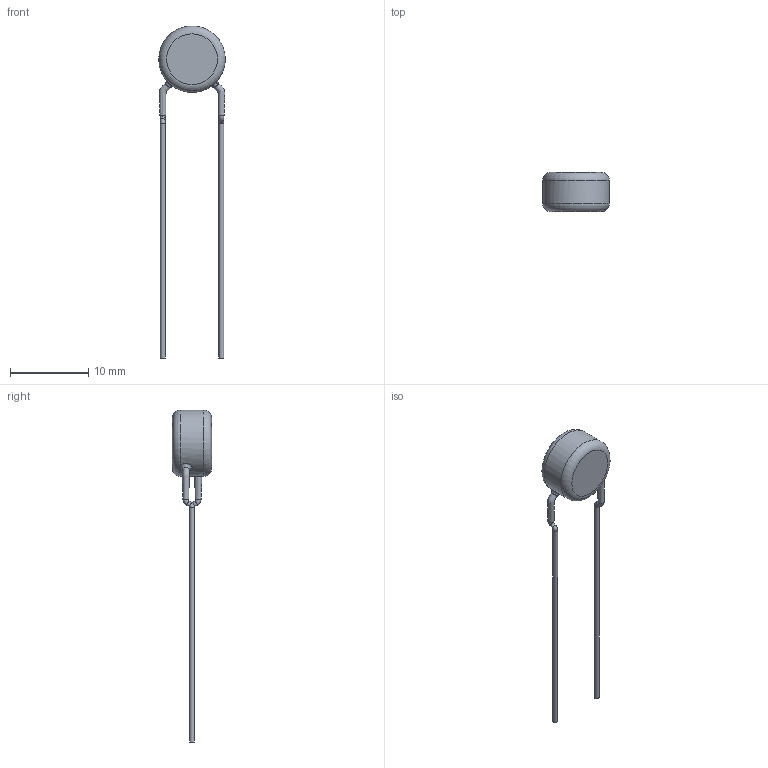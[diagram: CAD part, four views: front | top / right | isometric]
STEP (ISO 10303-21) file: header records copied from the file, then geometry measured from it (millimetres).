
FILE_DESCRIPTION(/* description */ (''),/* implementation_level */ '2;1');
FILE_NAME(/* name */ 'I:\Marketing\M6t1\3D-Models\Zchng-Werk-3\Upload for homepage\BCC\AY2\Inline Dia 0,6 LS 7,5\AY2152K31Y5US63V7.stp',/* time_stamp */ '2020-11-05T15:59:34+01:00',/* author */ ('truediger'),/* organization */ (''),/* preprocessor_version */ 'ST-DEVELOPER v18',/* originating_system */ 'Autodesk Inventor 2020',/* authorisation */ '');
FILE_SCHEMA (('AUTOMOTIVE_DESIGN { 1 0 10303 214 3 1 1 }'));
Length unit declared in the file: millimetre
Products named in the file (1): Bauteil7
Bounding box: 8.5 x 5 x 42.5 mm (x, y, z)
Volume: 295.8 mm3; surface area: 364.2 mm2
Topology: 1 solids, 1 shells, 29 faces, 73 edges, 48 vertices
Faces by surface type: cylinder 9, bspline 8, torus 6, plane 6
Full cylindrical faces by diameter (mm): 0.6 x4, 8.5 x1
Entity records: 2671 total; most frequent: CARTESIAN_POINT 1930, ORIENTED_EDGE 146, DIRECTION 141, EDGE_CURVE 73, AXIS2_PLACEMENT_3D 68, VERTEX_POINT 48, CIRCLE 44, EDGE_LOOP 31
